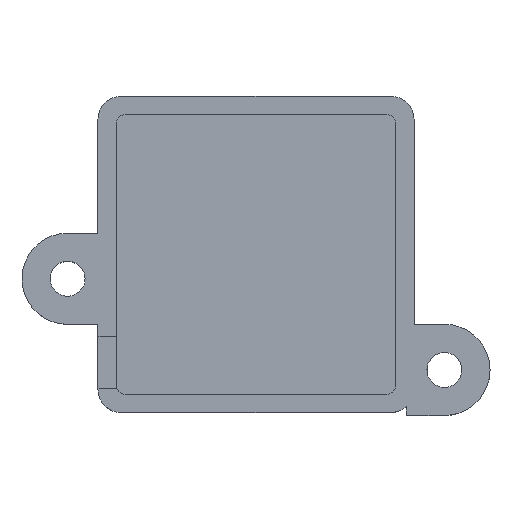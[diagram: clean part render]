
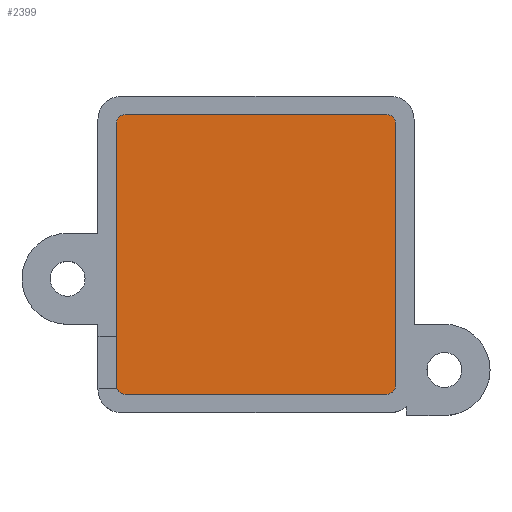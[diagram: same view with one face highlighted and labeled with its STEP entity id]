
A CAD part, top view. The second image highlights one B-rep face of the part: STEP entity #2399.
In plain terms, the highlighted planar face has unit normal (0, 0, 1).
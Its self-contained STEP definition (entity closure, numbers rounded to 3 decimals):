
#1087 = PLANE('',#1088);
#1088 = AXIS2_PLACEMENT_3D('',#1089,#1090,#1091);
#1089 = CARTESIAN_POINT('',(14.8,138.8,19.7));
#1090 = DIRECTION('',(1.,0.,-0.));
#1091 = DIRECTION('',(0.,-1.,0.));
#1115 = CYLINDRICAL_SURFACE('',#1116,0.6);
#1116 = AXIS2_PLACEMENT_3D('',#1117,#1118,#1119);
#1117 = CARTESIAN_POINT('',(15.4,138.2,19.7));
#1118 = DIRECTION('',(0.,0.,1.));
#1119 = DIRECTION('',(-0.,1.,0.));
#1143 = PLANE('',#1144);
#1144 = AXIS2_PLACEMENT_3D('',#1145,#1146,#1147);
#1145 = CARTESIAN_POINT('',(33.2,138.8,19.7));
#1146 = DIRECTION('',(0.,-1.,0.));
#1147 = DIRECTION('',(-1.,0.,0.));
#1171 = CYLINDRICAL_SURFACE('',#1172,0.6);
#1172 = AXIS2_PLACEMENT_3D('',#1173,#1174,#1175);
#1173 = CARTESIAN_POINT('',(32.6,138.2,19.7));
#1174 = DIRECTION('',(0.,0.,1.));
#1175 = DIRECTION('',(1.,0.,-0.));
#1199 = PLANE('',#1200);
#1200 = AXIS2_PLACEMENT_3D('',#1201,#1202,#1203);
#1201 = CARTESIAN_POINT('',(33.2,120.4,19.7));
#1202 = DIRECTION('',(-1.,0.,0.));
#1203 = DIRECTION('',(0.,1.,0.));
#1227 = CYLINDRICAL_SURFACE('',#1228,0.6);
#1228 = AXIS2_PLACEMENT_3D('',#1229,#1230,#1231);
#1229 = CARTESIAN_POINT('',(32.6,121.,19.7));
#1230 = DIRECTION('',(0.,0.,1.));
#1231 = DIRECTION('',(0.,-1.,0.));
#1255 = PLANE('',#1256);
#1256 = AXIS2_PLACEMENT_3D('',#1257,#1258,#1259);
#1257 = CARTESIAN_POINT('',(14.8,120.4,19.7));
#1258 = DIRECTION('',(0.,1.,0.));
#1259 = DIRECTION('',(1.,0.,0.));
#1283 = CYLINDRICAL_SURFACE('',#1284,0.6);
#1284 = AXIS2_PLACEMENT_3D('',#1285,#1286,#1287);
#1285 = CARTESIAN_POINT('',(15.4,121.,19.7));
#1286 = DIRECTION('',(0.,0.,1.));
#1287 = DIRECTION('',(0.,-1.,0.));
#1899 = VERTEX_POINT('',#1900);
#1900 = CARTESIAN_POINT('',(15.4,120.4,19.7));
#1921 = EDGE_CURVE('',#1899,#1922,#1924,.T.);
#1922 = VERTEX_POINT('',#1923);
#1923 = CARTESIAN_POINT('',(14.8,121.,19.7));
#1924 = SURFACE_CURVE('',#1925,(#1930,#1937),.PCURVE_S1.);
#1925 = CIRCLE('',#1926,0.6);
#1926 = AXIS2_PLACEMENT_3D('',#1927,#1928,#1929);
#1927 = CARTESIAN_POINT('',(15.4,121.,19.7));
#1928 = DIRECTION('',(-0.,-0.,-1.));
#1929 = DIRECTION('',(0.,-1.,0.));
#1930 = PCURVE('',#1283,#1931);
#1931 = DEFINITIONAL_REPRESENTATION('',(#1932),#1936);
#1932 = LINE('',#1933,#1934);
#1933 = CARTESIAN_POINT('',(-0.,0.));
#1934 = VECTOR('',#1935,1.);
#1935 = DIRECTION('',(-1.,0.));
#1936 = ( GEOMETRIC_REPRESENTATION_CONTEXT(2) 
PARAMETRIC_REPRESENTATION_CONTEXT() REPRESENTATION_CONTEXT('2D SPACE',''
  ) );
#1937 = PCURVE('',#1938,#1943);
#1938 = PLANE('',#1939);
#1939 = AXIS2_PLACEMENT_3D('',#1940,#1941,#1942);
#1940 = CARTESIAN_POINT('',(24.,129.6,19.7));
#1941 = DIRECTION('',(0.,0.,1.));
#1942 = DIRECTION('',(1.,0.,-0.));
#1943 = DEFINITIONAL_REPRESENTATION('',(#1944),#1952);
#1944 = ( BOUNDED_CURVE() B_SPLINE_CURVE(2,(#1945,#1946,#1947,#1948,
#1949,#1950,#1951),.UNSPECIFIED.,.T.,.F.) B_SPLINE_CURVE_WITH_KNOTS((1,2
    ,2,2,2,1),(-2.094,0.,2.094,4.189,
6.283,8.378),.UNSPECIFIED.) CURVE() 
GEOMETRIC_REPRESENTATION_ITEM() RATIONAL_B_SPLINE_CURVE((1.,0.5,1.,0.5,
1.,0.5,1.)) REPRESENTATION_ITEM('') );
#1945 = CARTESIAN_POINT('',(-8.6,-9.2));
#1946 = CARTESIAN_POINT('',(-9.639,-9.2));
#1947 = CARTESIAN_POINT('',(-9.12,-8.3));
#1948 = CARTESIAN_POINT('',(-8.6,-7.4));
#1949 = CARTESIAN_POINT('',(-8.08,-8.3));
#1950 = CARTESIAN_POINT('',(-7.561,-9.2));
#1951 = CARTESIAN_POINT('',(-8.6,-9.2));
#1952 = ( GEOMETRIC_REPRESENTATION_CONTEXT(2) 
PARAMETRIC_REPRESENTATION_CONTEXT() REPRESENTATION_CONTEXT('2D SPACE',''
  ) );
#2004 = EDGE_CURVE('',#1899,#2005,#2007,.T.);
#2005 = VERTEX_POINT('',#2006);
#2006 = CARTESIAN_POINT('',(32.6,120.4,19.7));
#2007 = SURFACE_CURVE('',#2008,(#2012,#2019),.PCURVE_S1.);
#2008 = LINE('',#2009,#2010);
#2009 = CARTESIAN_POINT('',(14.8,120.4,19.7));
#2010 = VECTOR('',#2011,1.);
#2011 = DIRECTION('',(1.,0.,0.));
#2012 = PCURVE('',#1255,#2013);
#2013 = DEFINITIONAL_REPRESENTATION('',(#2014),#2018);
#2014 = LINE('',#2015,#2016);
#2015 = CARTESIAN_POINT('',(0.,0.));
#2016 = VECTOR('',#2017,1.);
#2017 = DIRECTION('',(1.,0.));
#2018 = ( GEOMETRIC_REPRESENTATION_CONTEXT(2) 
PARAMETRIC_REPRESENTATION_CONTEXT() REPRESENTATION_CONTEXT('2D SPACE',''
  ) );
#2019 = PCURVE('',#1938,#2020);
#2020 = DEFINITIONAL_REPRESENTATION('',(#2021),#2025);
#2021 = LINE('',#2022,#2023);
#2022 = CARTESIAN_POINT('',(-9.2,-9.2));
#2023 = VECTOR('',#2024,1.);
#2024 = DIRECTION('',(1.,0.));
#2025 = ( GEOMETRIC_REPRESENTATION_CONTEXT(2) 
PARAMETRIC_REPRESENTATION_CONTEXT() REPRESENTATION_CONTEXT('2D SPACE',''
  ) );
#2054 = EDGE_CURVE('',#2005,#2055,#2057,.T.);
#2055 = VERTEX_POINT('',#2056);
#2056 = CARTESIAN_POINT('',(33.2,121.,19.7));
#2057 = SURFACE_CURVE('',#2058,(#2063,#2070),.PCURVE_S1.);
#2058 = CIRCLE('',#2059,0.6);
#2059 = AXIS2_PLACEMENT_3D('',#2060,#2061,#2062);
#2060 = CARTESIAN_POINT('',(32.6,121.,19.7));
#2061 = DIRECTION('',(0.,0.,1.));
#2062 = DIRECTION('',(0.,-1.,0.));
#2063 = PCURVE('',#1227,#2064);
#2064 = DEFINITIONAL_REPRESENTATION('',(#2065),#2069);
#2065 = LINE('',#2066,#2067);
#2066 = CARTESIAN_POINT('',(0.,0.));
#2067 = VECTOR('',#2068,1.);
#2068 = DIRECTION('',(1.,0.));
#2069 = ( GEOMETRIC_REPRESENTATION_CONTEXT(2) 
PARAMETRIC_REPRESENTATION_CONTEXT() REPRESENTATION_CONTEXT('2D SPACE',''
  ) );
#2070 = PCURVE('',#1938,#2071);
#2071 = DEFINITIONAL_REPRESENTATION('',(#2072),#2076);
#2072 = CIRCLE('',#2073,0.6);
#2073 = AXIS2_PLACEMENT_2D('',#2074,#2075);
#2074 = CARTESIAN_POINT('',(8.6,-8.6));
#2075 = DIRECTION('',(0.,-1.));
#2076 = ( GEOMETRIC_REPRESENTATION_CONTEXT(2) 
PARAMETRIC_REPRESENTATION_CONTEXT() REPRESENTATION_CONTEXT('2D SPACE',''
  ) );
#2103 = EDGE_CURVE('',#2055,#2104,#2106,.T.);
#2104 = VERTEX_POINT('',#2105);
#2105 = CARTESIAN_POINT('',(33.2,138.2,19.7));
#2106 = SURFACE_CURVE('',#2107,(#2111,#2118),.PCURVE_S1.);
#2107 = LINE('',#2108,#2109);
#2108 = CARTESIAN_POINT('',(33.2,120.4,19.7));
#2109 = VECTOR('',#2110,1.);
#2110 = DIRECTION('',(0.,1.,0.));
#2111 = PCURVE('',#1199,#2112);
#2112 = DEFINITIONAL_REPRESENTATION('',(#2113),#2117);
#2113 = LINE('',#2114,#2115);
#2114 = CARTESIAN_POINT('',(0.,0.));
#2115 = VECTOR('',#2116,1.);
#2116 = DIRECTION('',(1.,0.));
#2117 = ( GEOMETRIC_REPRESENTATION_CONTEXT(2) 
PARAMETRIC_REPRESENTATION_CONTEXT() REPRESENTATION_CONTEXT('2D SPACE',''
  ) );
#2118 = PCURVE('',#1938,#2119);
#2119 = DEFINITIONAL_REPRESENTATION('',(#2120),#2124);
#2120 = LINE('',#2121,#2122);
#2121 = CARTESIAN_POINT('',(9.2,-9.2));
#2122 = VECTOR('',#2123,1.);
#2123 = DIRECTION('',(0.,1.));
#2124 = ( GEOMETRIC_REPRESENTATION_CONTEXT(2) 
PARAMETRIC_REPRESENTATION_CONTEXT() REPRESENTATION_CONTEXT('2D SPACE',''
  ) );
#2153 = EDGE_CURVE('',#2104,#2154,#2156,.T.);
#2154 = VERTEX_POINT('',#2155);
#2155 = CARTESIAN_POINT('',(32.6,138.8,19.7));
#2156 = SURFACE_CURVE('',#2157,(#2162,#2169),.PCURVE_S1.);
#2157 = CIRCLE('',#2158,0.6);
#2158 = AXIS2_PLACEMENT_3D('',#2159,#2160,#2161);
#2159 = CARTESIAN_POINT('',(32.6,138.2,19.7));
#2160 = DIRECTION('',(0.,0.,1.));
#2161 = DIRECTION('',(0.,-1.,0.));
#2162 = PCURVE('',#1171,#2163);
#2163 = DEFINITIONAL_REPRESENTATION('',(#2164),#2168);
#2164 = LINE('',#2165,#2166);
#2165 = CARTESIAN_POINT('',(-1.571,0.));
#2166 = VECTOR('',#2167,1.);
#2167 = DIRECTION('',(1.,0.));
#2168 = ( GEOMETRIC_REPRESENTATION_CONTEXT(2) 
PARAMETRIC_REPRESENTATION_CONTEXT() REPRESENTATION_CONTEXT('2D SPACE',''
  ) );
#2169 = PCURVE('',#1938,#2170);
#2170 = DEFINITIONAL_REPRESENTATION('',(#2171),#2175);
#2171 = CIRCLE('',#2172,0.6);
#2172 = AXIS2_PLACEMENT_2D('',#2173,#2174);
#2173 = CARTESIAN_POINT('',(8.6,8.6));
#2174 = DIRECTION('',(0.,-1.));
#2175 = ( GEOMETRIC_REPRESENTATION_CONTEXT(2) 
PARAMETRIC_REPRESENTATION_CONTEXT() REPRESENTATION_CONTEXT('2D SPACE',''
  ) );
#2202 = EDGE_CURVE('',#2154,#2203,#2205,.T.);
#2203 = VERTEX_POINT('',#2204);
#2204 = CARTESIAN_POINT('',(15.4,138.8,19.7));
#2205 = SURFACE_CURVE('',#2206,(#2210,#2217),.PCURVE_S1.);
#2206 = LINE('',#2207,#2208);
#2207 = CARTESIAN_POINT('',(33.2,138.8,19.7));
#2208 = VECTOR('',#2209,1.);
#2209 = DIRECTION('',(-1.,0.,0.));
#2210 = PCURVE('',#1143,#2211);
#2211 = DEFINITIONAL_REPRESENTATION('',(#2212),#2216);
#2212 = LINE('',#2213,#2214);
#2213 = CARTESIAN_POINT('',(0.,-0.));
#2214 = VECTOR('',#2215,1.);
#2215 = DIRECTION('',(1.,0.));
#2216 = ( GEOMETRIC_REPRESENTATION_CONTEXT(2) 
PARAMETRIC_REPRESENTATION_CONTEXT() REPRESENTATION_CONTEXT('2D SPACE',''
  ) );
#2217 = PCURVE('',#1938,#2218);
#2218 = DEFINITIONAL_REPRESENTATION('',(#2219),#2223);
#2219 = LINE('',#2220,#2221);
#2220 = CARTESIAN_POINT('',(9.2,9.2));
#2221 = VECTOR('',#2222,1.);
#2222 = DIRECTION('',(-1.,0.));
#2223 = ( GEOMETRIC_REPRESENTATION_CONTEXT(2) 
PARAMETRIC_REPRESENTATION_CONTEXT() REPRESENTATION_CONTEXT('2D SPACE',''
  ) );
#2252 = EDGE_CURVE('',#2203,#2253,#2255,.T.);
#2253 = VERTEX_POINT('',#2254);
#2254 = CARTESIAN_POINT('',(14.8,138.2,19.7));
#2255 = SURFACE_CURVE('',#2256,(#2261,#2268),.PCURVE_S1.);
#2256 = CIRCLE('',#2257,0.6);
#2257 = AXIS2_PLACEMENT_3D('',#2258,#2259,#2260);
#2258 = CARTESIAN_POINT('',(15.4,138.2,19.7));
#2259 = DIRECTION('',(0.,0.,1.));
#2260 = DIRECTION('',(0.,-1.,0.));
#2261 = PCURVE('',#1115,#2262);
#2262 = DEFINITIONAL_REPRESENTATION('',(#2263),#2267);
#2263 = LINE('',#2264,#2265);
#2264 = CARTESIAN_POINT('',(-3.142,0.));
#2265 = VECTOR('',#2266,1.);
#2266 = DIRECTION('',(1.,0.));
#2267 = ( GEOMETRIC_REPRESENTATION_CONTEXT(2) 
PARAMETRIC_REPRESENTATION_CONTEXT() REPRESENTATION_CONTEXT('2D SPACE',''
  ) );
#2268 = PCURVE('',#1938,#2269);
#2269 = DEFINITIONAL_REPRESENTATION('',(#2270),#2274);
#2270 = CIRCLE('',#2271,0.6);
#2271 = AXIS2_PLACEMENT_2D('',#2272,#2273);
#2272 = CARTESIAN_POINT('',(-8.6,8.6));
#2273 = DIRECTION('',(0.,-1.));
#2274 = ( GEOMETRIC_REPRESENTATION_CONTEXT(2) 
PARAMETRIC_REPRESENTATION_CONTEXT() REPRESENTATION_CONTEXT('2D SPACE',''
  ) );
#2301 = EDGE_CURVE('',#2253,#1922,#2302,.T.);
#2302 = SURFACE_CURVE('',#2303,(#2307,#2314),.PCURVE_S1.);
#2303 = LINE('',#2304,#2305);
#2304 = CARTESIAN_POINT('',(14.8,138.8,19.7));
#2305 = VECTOR('',#2306,1.);
#2306 = DIRECTION('',(0.,-1.,0.));
#2307 = PCURVE('',#1087,#2308);
#2308 = DEFINITIONAL_REPRESENTATION('',(#2309),#2313);
#2309 = LINE('',#2310,#2311);
#2310 = CARTESIAN_POINT('',(0.,0.));
#2311 = VECTOR('',#2312,1.);
#2312 = DIRECTION('',(1.,0.));
#2313 = ( GEOMETRIC_REPRESENTATION_CONTEXT(2) 
PARAMETRIC_REPRESENTATION_CONTEXT() REPRESENTATION_CONTEXT('2D SPACE',''
  ) );
#2314 = PCURVE('',#1938,#2315);
#2315 = DEFINITIONAL_REPRESENTATION('',(#2316),#2320);
#2316 = LINE('',#2317,#2318);
#2317 = CARTESIAN_POINT('',(-9.2,9.2));
#2318 = VECTOR('',#2319,1.);
#2319 = DIRECTION('',(0.,-1.));
#2320 = ( GEOMETRIC_REPRESENTATION_CONTEXT(2) 
PARAMETRIC_REPRESENTATION_CONTEXT() REPRESENTATION_CONTEXT('2D SPACE',''
  ) );
#2399 = ADVANCED_FACE('',(#2400),#1938,.T.);
#2400 = FACE_BOUND('',#2401,.T.);
#2401 = EDGE_LOOP('',(#2402,#2403,#2404,#2405,#2406,#2407,#2408,#2409));
#2402 = ORIENTED_EDGE('',*,*,#2004,.T.);
#2403 = ORIENTED_EDGE('',*,*,#2054,.T.);
#2404 = ORIENTED_EDGE('',*,*,#2103,.T.);
#2405 = ORIENTED_EDGE('',*,*,#2153,.T.);
#2406 = ORIENTED_EDGE('',*,*,#2202,.T.);
#2407 = ORIENTED_EDGE('',*,*,#2252,.T.);
#2408 = ORIENTED_EDGE('',*,*,#2301,.T.);
#2409 = ORIENTED_EDGE('',*,*,#1921,.F.);
